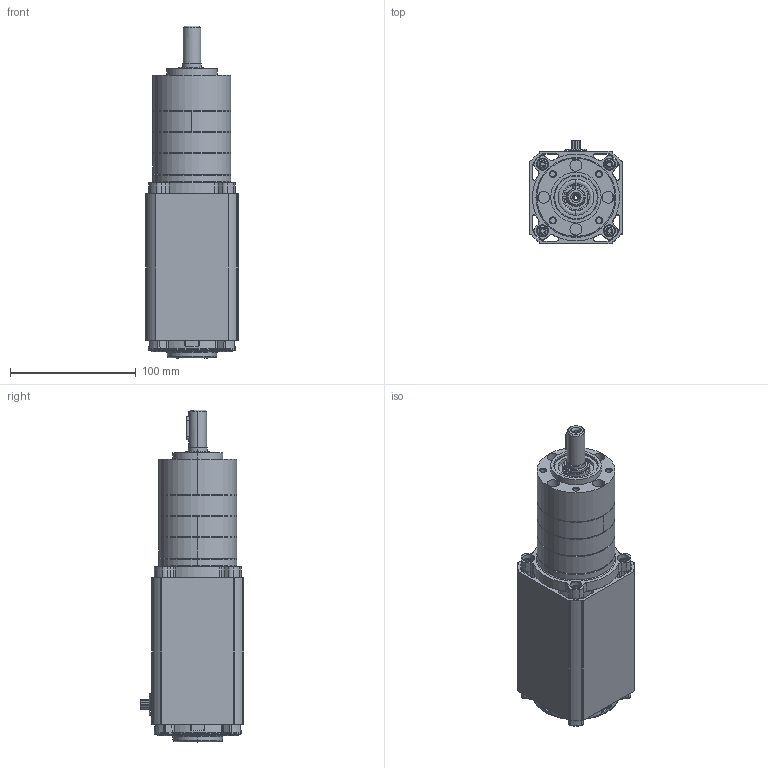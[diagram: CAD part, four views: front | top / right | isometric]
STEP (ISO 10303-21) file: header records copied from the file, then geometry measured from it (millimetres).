
FILE_DESCRIPTION (( 'STEP AP214' ), '1' );
FILE_NAME ('BL6540-PL6200i_3S.STEP', '2013-03-04T15:27:33', ( '' ), ( '' ), 'SwSTEP 2.0', 'SolidWorks 2013', '' );
FILE_SCHEMA (( 'AUTOMOTIVE_DESIGN' ));
Length unit declared in the file: inch
Products named in the file (1): BL6540-PL6200i_3S
Bounding box: 73.36 x 82.37 x 263.59 mm (x, y, z)
Surface area: 116074.5 mm2 (no closed solid volume)
Topology: 0 solids, 58 shells, 923 faces, 3170 edges, 2268 vertices
Faces by surface type: cylinder 386, plane 264, cone 109, torus 100, bspline 61, sphere 3
Entity records: 51776 total; most frequent: CARTESIAN_POINT 12914, DIRECTION 5686, ORIENTED_EDGE 5153, EDGE_CURVE 3163, VERTEX_POINT 2268, AXIS2_PLACEMENT_3D 2162, LINE 1362, VECTOR 1362
